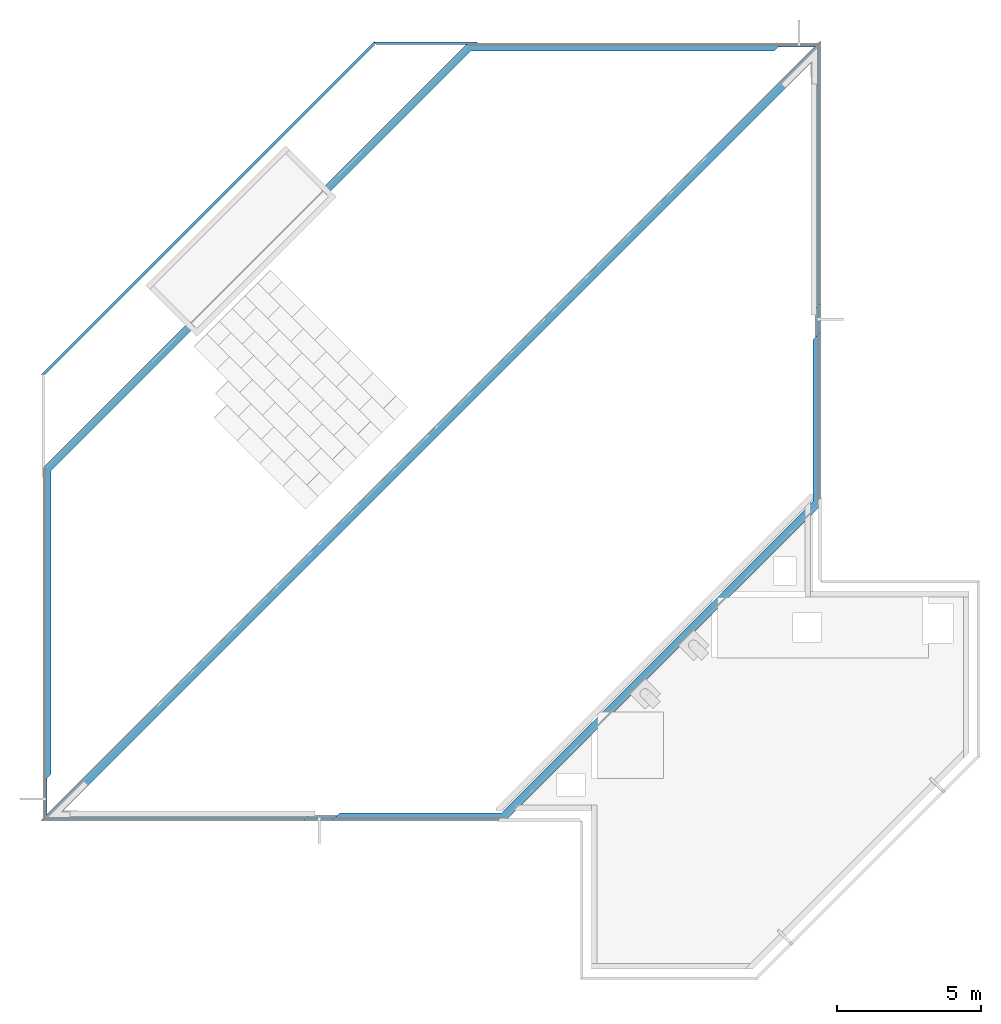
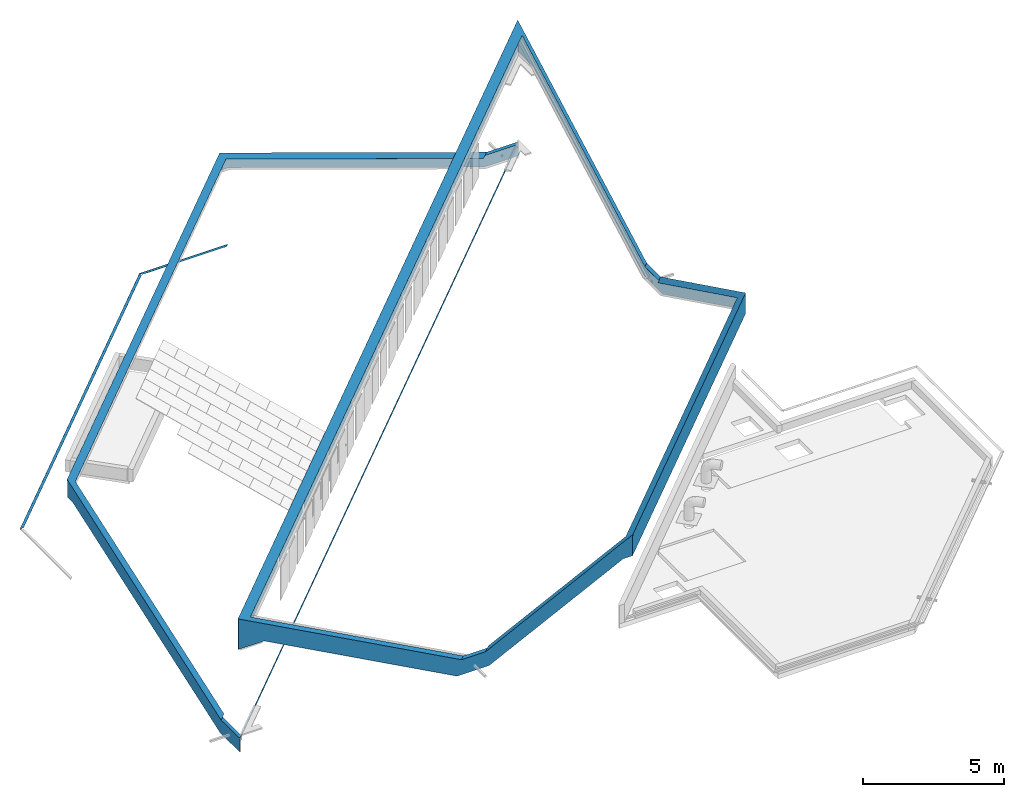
# One storey, part 6 of 8: 3 discrete accessories.
"""IFC4X3_ADD2 building model written with IfcOpenShell, lengths in millimetres."""

from ifc_helpers import new_model, si_unit, direction, frame, origin_with_axes, place, context, subcontext, project, spatial, polygons, source, transform, mapped, material, element, save


model = new_model("IFC4X3_ADD2")

# Units and contexts
model_context = context("Model", 3, precision=1e-05, world=origin_with_axes(), true_north=direction((0.0, 1.0)))
body_context = subcontext(model_context, "Body", "Model", "MODEL_VIEW")
ifc_project = project(units=[si_unit("LENGTHUNIT", "METRE", prefix="MILLI"), si_unit("AREAUNIT", "SQUARE_METRE"), si_unit("VOLUMEUNIT", "CUBIC_METRE"), si_unit("PLANEANGLEUNIT", "RADIAN"), si_unit("TIMEUNIT", "SECOND"), si_unit("MASSUNIT", "GRAM")], contexts=[model_context])

# Site, building, storey
site_placement = place(None, origin_with_axes())
site = spatial("IfcSite", under=ifc_project, at=site_placement, Name="Site", CompositionType="ELEMENT")
building_placement = place(site_placement, origin_with_axes())
building = spatial("IfcBuilding", under=site, at=building_placement, Name="IFC Building Story")
storey_placement = place(building_placement, frame((0.0, 0.0, 17050.0), z_axis=(0.0, 0.0, 1.0), x_axis=(1.0, 0.0, 0.0)))
storey = spatial("IfcBuildingStorey", under=building, at=storey_placement, Name="050", Elevation=17050.0)

# Discrete accessories
ifc_material_1 = material(Name="BB_05.02.34_Aluminium_Dakrand_Sheds")
shared_shape_1 = source(origin_with_axes(), body_context, "Body", "Tessellation", [
    polygons([(25748.5370660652, 26999.0042868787, 599.999999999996), (27066.5651713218, 26999.0042868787, 600.000000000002), (27066.5651713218, 26999.0042868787, 540.000000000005), (25738.4079158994, 26999.0042868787, 540.000000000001), (14839.8588905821, 26999.0042868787, 4327.71760725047), (14839.8588905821, 26999.0042868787, 4391.23792544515), (25748.5370660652, 26997.0042868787, 599.999999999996), (14839.8588905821, 26997.0042868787, 4391.23792544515), (14839.8588905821, 26997.0042868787, 4327.71760725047), (25738.4079158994, 26997.0042868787, 540.000000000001), (27066.5651713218, 26997.0042868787, 540.000000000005), (27066.5651713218, 26997.0042868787, 600.000000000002)], [[[1, 2, 3]], [[1, 3, 4]], [[4, 5, 6]], [[4, 6, 1]], [[7, 8, 9]], [[7, 9, 10]], [[10, 11, 12]], [[10, 12, 7]], [[1, 6, 8, 7]], [[6, 5, 9, 8]], [[5, 4, 10, 9]], [[4, 3, 11, 10]], [[3, 2, 12, 11]], [[2, 1, 7, 12]]]),
    polygons([(25732.0687149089, 26989.0042868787, 570.0), (27066.5651713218, 26989.0042868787, 570.000000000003), (27066.5651713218, 26989.0042868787, 2.16573425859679e-12), (25645.3217485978, 26989.0042868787, 6.49720277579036e-12), (15200.5798052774, 26989.0042868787, 3630.00000000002), (14834.1015312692, 26989.0042868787, 3630.00000000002), (14834.1015312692, 26989.0042868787, 4357.51539207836), (25732.0687149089, 26987.0042868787, 570.0), (14834.1015312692, 26987.0042868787, 4357.51539207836), (14834.1015312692, 26987.0042868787, 3630.00000000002), (15200.5798052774, 26987.0042868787, 3630.00000000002), (25645.3217485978, 26987.0042868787, 6.49720277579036e-12), (27066.5651713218, 26987.0042868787, 2.16573425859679e-12), (27066.5651713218, 26987.0042868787, 570.000000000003)], [[[1, 2, 3]], [[5, 6, 7]], [[1, 3, 4]], [[4, 5, 7]], [[4, 7, 1]], [[11, 12, 8]], [[11, 8, 9]], [[9, 10, 11]], [[12, 13, 8]], [[13, 14, 8]], [[1, 7, 9, 8]], [[7, 6, 10, 9]], [[5, 4, 12, 11]], [[4, 3, 13, 12]], [[3, 2, 14, 13]], [[2, 1, 8, 14]], [[6, 5, 11, 10]]]),
    polygons([(27075.2261934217, 27057.2715649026, 5795.974865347), (27076.5536235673, 17934.4670008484, 840.000000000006), (27076.6969054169, 16949.7580758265, 840.000000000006), (27077.5730085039, 10928.7126243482, 3797.51691475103), (27077.5730085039, 10928.7126243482, 3730.66942669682), (27076.6989338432, 16935.8176535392, 779.999999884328), (27076.5514052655, 17949.7123477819, 780.000000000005), (27075.2261934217, 27057.2715648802, 5727.69281174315), (27073.2261934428, 27057.271273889, 5795.974865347), (27073.2261934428, 27057.2712738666, 5727.69281174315), (27074.5514052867, 17949.7120567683, 780.000000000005), (27074.6989338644, 16935.8173625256, 779.999999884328), (27075.573008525, 10928.7123333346, 3730.66942669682), (27075.573008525, 10928.7123333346, 3797.51691475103), (27074.6969054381, 16949.7577848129, 840.000000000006), (27074.5536235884, 17934.4667098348, 840.000000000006)], [[[3, 4, 5]], [[3, 5, 6]], [[6, 7, 2]], [[6, 2, 3]], [[7, 8, 1]], [[7, 1, 2]], [[16, 9, 10]], [[16, 10, 11]], [[11, 12, 15]], [[11, 15, 16]], [[12, 13, 14]], [[12, 14, 15]], [[1, 8, 10, 9]], [[2, 1, 9, 16]], [[7, 6, 12, 11]], [[5, 4, 14, 13]], [[3, 2, 16, 15]], [[6, 5, 13, 12]], [[4, 3, 15, 14]], [[8, 7, 11, 10]]]),
    polygons([(27066.7406153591, 25989.4708860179, 4469.99999999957), (27066.5852430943, 27057.271562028, 4470.0), (27066.5852430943, 27057.271562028, 5766.95044664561), (27067.9117651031, 17940.7081957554, 815.000000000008), (27068.0568044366, 16943.9209089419, 815.000000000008), (27068.9310398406, 10935.7111663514, 3766.21205848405), (27068.9310398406, 10935.7111663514, 2880.0), (27068.8759127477, 11314.5738098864, 2880.0), (27068.0775748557, 16801.1755638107, 185.0), (27067.8884755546, 18100.7663350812, 185.000000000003), (27064.7406153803, 25989.4705950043, 4469.99999999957), (27065.8884755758, 18100.7660440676, 185.000000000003), (27066.0775748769, 16801.1752727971, 185.0), (27066.8759127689, 11314.5735188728, 2880.0), (27066.9310398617, 10935.7108753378, 2880.0), (27066.9310398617, 10935.7108753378, 3766.21205848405), (27066.0568044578, 16943.9206179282, 815.000000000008), (27065.9117651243, 17940.7079047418, 815.000000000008), (27064.5852431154, 27057.2712710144, 5766.95044664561), (27064.5852431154, 27057.2712710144, 4470.0)], [[[1, 2, 3]], [[8, 9, 5]], [[8, 5, 6]], [[6, 7, 8]], [[9, 10, 4]], [[9, 4, 5]], [[10, 1, 3]], [[10, 3, 4]], [[14, 15, 16]], [[18, 19, 11]], [[18, 11, 12]], [[12, 13, 17]], [[12, 17, 18]], [[13, 14, 16]], [[13, 16, 17]], [[19, 20, 11]], [[3, 2, 20, 19]], [[1, 10, 12, 11]], [[10, 9, 13, 12]], [[7, 6, 16, 15]], [[5, 4, 18, 17]], [[2, 1, 11, 20]], [[8, 7, 15, 14]], [[9, 8, 14, 13]], [[6, 5, 17, 16]], [[4, 3, 19, 18]]]),
    polygons([(27076.5525519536, 17938.3555106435, 842.116390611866), (27076.5525519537, 27077.5694582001, 5807.00567340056), (27076.5525519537, 27075.8462852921, 5808.59165497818), (27076.5525519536, 17936.6323377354, 843.702372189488), (26901.5525519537, 26464.0270550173, 5571.28906775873), (26901.5525519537, 26464.0270550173, 5568.76697036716), (26901.5525519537, 17763.3555106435, 842.116390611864), (26901.5525519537, 17761.6323377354, 843.702372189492), (613.542403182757, 176.016906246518, 5571.28906775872), (613.542403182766, 176.01690624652, 5568.76697036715), (9314.2139475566, 176.016906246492, 844.638488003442), (9314.2139475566, 176.016906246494, 842.116390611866), (9139.21394755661, 1.01690624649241, 842.116390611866), (9139.21394755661, 1.01690624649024, 844.638488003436), (1.72317290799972, 1.01690624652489, 5808.59165497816), (0.0, 1.01690624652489, 5807.00567340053)], [[[1, 2, 3, 4]], [[5, 6, 7, 8]], [[6, 5, 9, 10]], [[10, 9, 11, 12]], [[13, 14, 15, 16]], [[10, 12, 13]], [[10, 13, 16]], [[16, 2, 6]], [[16, 6, 10]], [[2, 1, 7]], [[2, 7, 6]], [[5, 8, 4]], [[5, 4, 3]], [[3, 15, 9]], [[3, 9, 5]], [[15, 14, 11]], [[15, 11, 9]], [[7, 1, 4, 8]], [[12, 11, 14, 13]], [[2, 16, 15, 3]]]),
    polygons([(27059.4877938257, 27060.3685012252, 5807.79341546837), (27059.4877938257, 27060.3685012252, 5730.2123628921), (17.1946472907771, 18.0753546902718, 5730.2123628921), (17.1946472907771, 18.0753546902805, 5807.79341546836), (27060.9020073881, 27058.9542876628, 5807.79341546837), (18.6088608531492, 16.6611411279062, 5807.79341546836), (18.6088608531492, 16.6611411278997, 5730.2123628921), (27060.9020073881, 27058.9542876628, 5730.2123628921)], [[[1, 2, 3, 4]], [[5, 6, 7, 8]], [[2, 1, 5, 8]], [[3, 2, 8, 7]], [[4, 3, 7, 6]], [[1, 4, 6, 5]]]),
    polygons([(20.2978961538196, 2.34681508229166, 5795.97486535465), (20.2978961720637, 2.3468150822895, 5727.69281174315), (9127.85711327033, 1.0216032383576, 780.000000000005), (10141.751807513, 0.874074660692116, 779.999999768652), (16148.856836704, 0.0, 3730.66942669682), (16148.856836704, 0.0, 3797.51691475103), (10127.8113852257, 0.876103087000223, 840.000000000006), (9143.10246020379, 1.01938493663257, 840.000000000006), (20.2981871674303, 4.34681506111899, 5795.97486535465), (9143.10275121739, 3.0193849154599, 840.000000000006), (10127.8116762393, 2.87610306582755, 840.000000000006), (16148.8571277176, 1.99999997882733, 3797.51691475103), (16148.8571277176, 1.99999997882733, 3730.66942669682), (10141.7520985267, 2.87407463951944, 779.999999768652), (9127.85740428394, 3.02160321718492, 780.000000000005), (20.2981871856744, 4.34681506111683, 5727.69281174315)], [[[8, 1, 2]], [[8, 2, 3]], [[3, 4, 7]], [[3, 7, 8]], [[4, 5, 6]], [[4, 6, 7]], [[11, 12, 13]], [[11, 13, 14]], [[14, 15, 10]], [[14, 10, 11]], [[15, 16, 9]], [[15, 9, 10]], [[2, 1, 9, 16]], [[1, 8, 10, 9]], [[4, 3, 15, 14]], [[6, 5, 13, 12]], [[8, 7, 11, 10]], [[5, 4, 14, 13]], [[7, 6, 12, 11]], [[3, 2, 16, 15]]]),
    polygons([(27076.5525519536, 10927.5884217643, 3798.02084128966), (27076.5525519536, 10927.5884217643, 3800.45602044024), (16149.9810364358, 1.01690624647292, 3800.45602044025), (16149.9810364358, 1.01690624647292, 3798.02084128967), (10122.8199971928, 1.01690624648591, 840.008099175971), (10122.8199971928, 1.01690624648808, 837.572920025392), (26807.5525519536, 16686.4127150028, 837.247139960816), (26807.5525519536, 16686.4127150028, 839.682319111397), (27076.5525519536, 16955.4127150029, 839.68231911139), (27076.5525519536, 16955.4127150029, 837.247139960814), (10391.8199971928, 270.016906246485, 837.572920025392), (10391.8199971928, 270.016906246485, 840.008099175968), (16021.5870254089, 270.016906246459, 3605.26225239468), (16021.5870254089, 270.016906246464, 3602.8270732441), (26807.5525519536, 11055.9824327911, 3605.26225239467), (26807.5525519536, 11055.9824327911, 3602.82707324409)], [[[1, 2, 3, 4]], [[4, 3, 5, 6]], [[7, 8, 9, 10]], [[2, 1, 10, 9]], [[11, 12, 13, 14]], [[14, 13, 15, 16]], [[8, 7, 16, 15]], [[12, 11, 6, 5]], [[13, 12, 5]], [[13, 5, 3]], [[3, 2, 15]], [[3, 15, 13]], [[2, 9, 8]], [[2, 8, 15]], [[16, 7, 10]], [[16, 10, 1]], [[1, 4, 14]], [[1, 14, 16]], [[4, 6, 11]], [[4, 11, 14]]]),
    polygons([(16149.1630797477, 0.198949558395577, 3797.51691475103), (16149.1624873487, 0.198357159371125, 3730.08748172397), (27080.7073069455, 10931.7431767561, 3730.08748172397), (27080.7073069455, 10931.7431767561, 3797.51691475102), (16147.7488661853, 1.61316312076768, 3797.51691475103), (27079.2930933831, 10933.1573903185, 3797.51691475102), (27079.2930933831, 10933.1573903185, 3730.08748172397), (16147.7482737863, 1.61257072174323, 3730.08748172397)], [[[1, 2, 3, 4]], [[5, 6, 7, 8]], [[3, 2, 8, 7]], [[4, 3, 7, 6]], [[1, 4, 6, 5]], [[2, 1, 5, 8]]]),
    polygons([(78.5651713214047, 1329.03239213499, 600.0), (78.565171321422, 12237.7105676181, 4391.23792544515), (78.565171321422, 12237.7105676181, 4327.71760725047), (78.5651713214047, 1339.1615423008, 540.000000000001), (78.5651713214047, 11.0042868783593, 540.000000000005), (78.5651713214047, 11.0042868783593, 600.000000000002), (80.5651713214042, 1329.03239213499, 600.0), (80.5651713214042, 11.0042868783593, 600.000000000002), (80.5651713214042, 11.0042868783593, 540.000000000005), (80.5651713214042, 1339.1615423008, 540.000000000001), (80.5651713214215, 12237.7105676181, 4327.71760725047), (80.5651713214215, 12237.7105676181, 4391.23792544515)], [[[1, 2, 3]], [[1, 3, 4]], [[4, 5, 6]], [[4, 6, 1]], [[7, 8, 9]], [[7, 9, 10]], [[10, 11, 12]], [[10, 12, 7]], [[2, 1, 7, 12]], [[3, 2, 12, 11]], [[4, 3, 11, 10]], [[5, 4, 10, 9]], [[6, 5, 9, 8]], [[1, 6, 8, 7]]]),
    polygons([(78.565171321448, 12237.7105676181, 4392.08749079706), (14839.8588905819, 26999.0042868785, 4392.08749079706), (14839.8588905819, 26999.0042868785, 4324.25940845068), (78.565171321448, 12237.7105676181, 4324.25940845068), (79.9793848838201, 12236.2963540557, 4392.08749079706), (79.9793848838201, 12236.2963540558, 4324.25940845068), (14841.2731041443, 26997.5900733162, 4324.25940845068), (14841.2731041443, 26997.5900733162, 4392.08749079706)], [[[1, 2, 3, 4]], [[5, 6, 7, 8]], [[2, 1, 5, 8]], [[3, 2, 8, 7]], [[4, 3, 7, 6]], [[1, 4, 6, 5]]]),
    polygons([(1088.09857258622, 10.8316210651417, 4469.99999999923), (8976.80312352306, 9.68376086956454, 185.000000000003), (10276.3938947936, 9.49466156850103, 185.000000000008), (15762.9956487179, 8.69632367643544, 2880.0), (16141.8582922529, 8.64119658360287, 2880.0), (16141.8582922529, 8.64119658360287, 3766.21205848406), (10133.6485496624, 9.51543198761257, 815.000000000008), (9136.86126284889, 9.66047132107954, 815.000000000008), (20.2978965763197, 10.9869933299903, 5766.95044664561), (20.2978965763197, 10.9869933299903, 4470.0), (1088.09886359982, 12.831621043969, 4469.99999999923), (20.2981875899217, 12.9869933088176, 4470.0), (20.2981875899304, 12.9869933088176, 5766.95044664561), (9136.8615538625, 11.6604712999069, 815.000000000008), (10133.6488406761, 11.5154319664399, 815.000000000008), (16141.8585832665, 10.6411965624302, 3766.21205848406), (16141.8585832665, 10.6411965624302, 2880.0), (15762.9959397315, 10.6963236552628, 2880.0), (10276.3941858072, 11.4946615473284, 185.000000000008), (8976.80341453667, 11.6837608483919, 185.000000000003)], [[[4, 5, 6]], [[8, 9, 1]], [[8, 1, 2]], [[2, 3, 7]], [[2, 7, 8]], [[3, 4, 6]], [[3, 6, 7]], [[9, 10, 1]], [[11, 12, 13]], [[18, 19, 15]], [[18, 15, 16]], [[16, 17, 18]], [[19, 20, 14]], [[19, 14, 15]], [[20, 11, 13]], [[20, 13, 14]], [[10, 9, 13, 12]], [[2, 1, 11, 20]], [[3, 2, 20, 19]], [[6, 5, 17, 16]], [[8, 7, 15, 14]], [[1, 10, 12, 11]], [[5, 4, 18, 17]], [[4, 3, 19, 18]], [[7, 6, 16, 15]], [[9, 8, 14, 13]]]),
    polygons([(157.191305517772, 70.3907720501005, 680.000000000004), (157.19130551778, 70.390772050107, 440.000000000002), (245.579653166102, 158.779119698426, 440.000000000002), (245.579653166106, 158.779119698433, 560.000000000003), (26932.7903385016, 26845.9898050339, 560.000000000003), (26932.7903385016, 26845.9898050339, 440.000000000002), (27021.1786861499, 26934.3781526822, 440.000000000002), (27021.1786861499, 26934.3781526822, 680.000000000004), (155.777091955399, 71.8049856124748, 680.000000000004), (27019.7644725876, 26935.7923662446, 680.000000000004), (27019.7644725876, 26935.7923662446, 440.000000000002), (26931.3761249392, 26847.4040185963, 440.000000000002), (26931.3761249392, 26847.4040185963, 560.000000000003), (244.165439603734, 160.193333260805, 560.000000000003), (244.16543960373, 160.193333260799, 440.000000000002), (155.777091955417, 71.8049856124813, 440.000000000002)], [[[5, 6, 7]], [[5, 7, 8]], [[8, 1, 4]], [[8, 4, 5]], [[1, 2, 4]], [[2, 3, 4]], [[14, 15, 16]], [[14, 16, 9]], [[9, 10, 13]], [[9, 13, 14]], [[10, 11, 13]], [[11, 12, 13]], [[10, 9, 1, 8]], [[11, 10, 8, 7]], [[12, 11, 7, 6]], [[13, 12, 6, 5]], [[14, 13, 5, 4]], [[15, 14, 4, 3]], [[16, 15, 3, 2]], [[9, 16, 2, 1]]]),
    polygons([(88.5651713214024, 1345.50074329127, 570.0), (88.5651713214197, 12243.467926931, 4357.51539207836), (88.5651713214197, 12243.467926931, 3630.00000000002), (88.5651713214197, 11876.9896529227, 3630.00000000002), (88.5651713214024, 1432.24770960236, 2.16573425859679e-12), (88.5651713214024, 11.0042868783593, 2.16573425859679e-12), (88.5651713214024, 11.0042868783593, 570.000000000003), (90.5651713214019, 1345.50074329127, 570.0), (90.5651713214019, 11.0042868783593, 570.000000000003), (90.5651713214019, 11.0042868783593, 2.16573425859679e-12), (90.5651713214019, 1432.24770960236, 2.16573425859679e-12), (90.5651713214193, 11876.9896529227, 3630.00000000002), (90.5651713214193, 12243.467926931, 3630.00000000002), (90.5651713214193, 12243.467926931, 4357.51539207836)], [[[4, 5, 1]], [[4, 1, 2]], [[2, 3, 4]], [[5, 6, 1]], [[6, 7, 1]], [[8, 9, 10]], [[12, 13, 14]], [[8, 10, 11]], [[11, 12, 14]], [[11, 14, 8]], [[2, 1, 8, 14]], [[3, 2, 14, 13]], [[5, 4, 12, 11]], [[6, 5, 11, 10]], [[7, 6, 10, 9]], [[1, 7, 9, 8]], [[4, 3, 13, 12]]]),
    polygons([(98.4646662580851, 12243.467926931, 4355.00000000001), (14853.9005211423, 26998.9037818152, 4355.00000000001), (14853.9005211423, 26998.9037818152, 3630.00000000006), (98.4646662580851, 12243.467926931, 3630.00000000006), (99.8788798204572, 12242.0537133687, 4355.00000000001), (99.8788798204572, 12242.0537133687, 3630.00000000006), (14855.3147347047, 26997.4895682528, 3630.00000000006), (14855.3147347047, 26997.4895682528, 4355.00000000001)], [[[1, 2, 3, 4]], [[5, 6, 7, 8]], [[2, 1, 5, 8]], [[3, 2, 8, 7]], [[4, 3, 7, 6]], [[1, 4, 6, 5]]]),
    polygons([(25753.7299589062, 26999.0042868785, 600.000000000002), (25603.7299589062, 26849.0042868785, 600.000000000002), (26903.2779084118, 26849.0042868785, 600.000000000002), (27053.2779084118, 26999.0042868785, 600.000000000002), (25753.7299589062, 26999.0042868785, 598.000000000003), (27053.2779084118, 26999.0042868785, 598.000000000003), (26903.2779084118, 26849.0042868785, 598.000000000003), (25603.7299589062, 26849.0042868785, 598.000000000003)], [[[1, 2, 3, 4]], [[5, 6, 7, 8]], [[1, 4, 6, 5]], [[4, 3, 7, 6]], [[3, 2, 8, 7]], [[2, 1, 5, 8]]]),
    polygons([(14839.8588905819, 26999.0042868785, 4393.50616580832), (78.5651713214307, 12237.7105676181, 4393.50616580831), (78.565171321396, 1325.12808107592, 600.911323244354), (361.565171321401, 1608.12808107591, 600.91132324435), (361.565171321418, 12138.8729057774, 4260.80104776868), (14938.6965524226, 26716.0042868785, 4260.80104776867), (25470.7299589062, 26716.0042868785, 600.463485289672), (25753.7299589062, 26999.0042868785, 600.463485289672), (78.5651713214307, 12237.7105676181, 4391.23792544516), (14839.8588905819, 26999.0042868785, 4391.23792544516), (25753.7299589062, 26999.0042868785, 598.195244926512), (25470.7299589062, 26716.0042868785, 598.195244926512), (14938.6965524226, 26716.0042868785, 4258.53280740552), (361.565171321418, 12138.8729057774, 4258.53280740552), (361.565171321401, 1608.12808107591, 598.643082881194), (228.56517132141, 1475.12808107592, 598.643082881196), (78.5651713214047, 1325.12808107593, 598.643082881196), (78.5651713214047, 1325.12808107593, 598.000000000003), (78.5651713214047, 24.2915497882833, 598.000000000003), (78.5651713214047, 24.2915497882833, 600.000000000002), (78.5651713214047, 1325.12808107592, 600.000000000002), (228.56517132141, 1475.12808107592, 600.000000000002), (228.56517132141, 174.291549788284, 600.000000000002), (228.56517132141, 1475.12808107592, 598.000000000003), (228.56517132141, 174.291549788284, 598.000000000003)], [[[6, 7, 8]], [[6, 8, 1]], [[1, 2, 5]], [[1, 5, 6]], [[2, 3, 4]], [[2, 4, 5]], [[16, 17, 9]], [[9, 14, 15]], [[9, 15, 16]], [[9, 10, 13]], [[9, 13, 14]], [[10, 11, 12]], [[10, 12, 13]], [[9, 2, 1, 10]], [[10, 1, 8, 11]], [[12, 7, 6, 13]], [[13, 6, 5, 14]], [[14, 5, 4, 15]], [[17, 18, 19]], [[21, 3, 2]], [[21, 2, 9]], [[9, 17, 21]], [[17, 19, 20]], [[17, 20, 21]], [[11, 8, 7, 12]], [[22, 16, 15]], [[22, 15, 4]], [[22, 4, 3]], [[3, 21, 22]], [[21, 20, 23, 22]], [[18, 24, 25, 19]], [[23, 20, 19, 25]], [[16, 22, 23]], [[16, 23, 25]], [[25, 24, 16]], [[24, 18, 17, 16]]]),
    polygons([(27066.5588616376, 27053.2974334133, 5771.03964506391), (27066.5588616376, 27053.2974334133, 4470.0), (23267.5679991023, 23254.3065708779, 4470.0), (23267.5679991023, 23254.3065708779, 4820.0), (23154.4309141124, 23141.1694858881, 4820.0), (23154.4309141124, 23141.1694858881, 4470.0), (20851.1719957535, 20837.9105675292, 4470.0), (20851.1719957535, 20837.9105675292, 4819.99999999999), (20738.0349107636, 20724.7734825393, 4819.99999999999), (20738.0349107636, 20724.7734825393, 4470.0), (18434.7759924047, 18421.5145641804, 4470.0), (18434.7759924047, 18421.5145641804, 4819.99999999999), (18321.6389074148, 18308.3774791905, 4819.99999999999), (18321.6389074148, 18308.3774791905, 4470.0), (16018.3799890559, 16005.1185608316, 4470.0), (16018.3799890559, 16005.1185608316, 4819.99999999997), (15905.242904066, 15891.9814758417, 4819.99999999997), (15905.242904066, 15891.9814758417, 4470.0), (13601.9839857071, 13588.7225574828, 4470.0), (13601.9839857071, 13588.7225574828, 4819.99999999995), (13488.8469007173, 13475.5854724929, 4819.99999999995), (13488.8469007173, 13475.5854724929, 4470.0), (11185.5879823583, 11172.326554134, 4470.0), (11185.5879823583, 11172.326554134, 4819.99999999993), (11072.4508973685, 11059.1894691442, 4819.99999999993), (11072.4508973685, 11059.1894691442, 4470.0), (8769.19197900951, 8755.93055078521, 4470.0), (8769.19197900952, 8755.93055078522, 4819.99999999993), (8656.05489401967, 8642.79346579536, 4819.99999999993), (8656.05489401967, 8642.79346579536, 4470.0), (6352.79597566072, 6339.53454743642, 4470.0), (6352.79597566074, 6339.53454743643, 4819.99999999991), (6239.65889067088, 6226.39746244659, 4819.99999999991), (6239.65889067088, 6226.39746244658, 4470.0), (3936.39997231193, 3923.13854408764, 4470.0), (3936.39997231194, 3923.13854408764, 4819.9999999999), (3823.2628873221, 3810.0014590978, 4819.9999999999), (3823.2628873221, 3810.0014590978, 4470.0), (24.2657151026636, 11.0042868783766, 4470.0), (24.2657151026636, 11.0042868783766, 5771.0396450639), (27067.9730752, 27051.8832198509, 5771.03964506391), (25.6799286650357, 9.59007331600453, 5771.0396450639), (25.6799286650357, 9.59007331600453, 4470.0), (3824.67710088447, 3808.58724553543, 4470.0), (3824.67710088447, 3808.58724553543, 4819.9999999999), (3937.81418587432, 3921.72433052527, 4819.9999999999), (3937.81418587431, 3921.72433052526, 4470.0), (6241.07310423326, 6224.98324888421, 4470.0), (6241.07310423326, 6224.98324888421, 4819.99999999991), (6354.2101892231, 6338.12033387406, 4819.99999999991), (6354.21018922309, 6338.12033387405, 4470.0), (8657.46910758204, 8641.37925223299, 4470.0), (8657.46910758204, 8641.37925223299, 4819.99999999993), (8770.6061925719, 8754.51633722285, 4819.99999999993), (8770.60619257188, 8754.51633722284, 4470.0), (11073.8651109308, 11057.7752555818, 4470.0), (11073.8651109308, 11057.7752555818, 4819.99999999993), (11187.0021959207, 11170.9123405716, 4819.99999999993), (11187.0021959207, 11170.9123405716, 4470.0), (13490.2611142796, 13474.1712589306, 4470.0), (13490.2611142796, 13474.1712589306, 4819.99999999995), (13603.3981992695, 13587.3083439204, 4819.99999999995), (13603.3981992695, 13587.3083439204, 4470.0), (15906.6571176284, 15890.5672622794, 4470.0), (15906.6571176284, 15890.5672622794, 4819.99999999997), (16019.7942026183, 16003.7043472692, 4819.99999999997), (16019.7942026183, 16003.7043472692, 4470.0), (18323.0531209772, 18306.9632656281, 4470.0), (18323.0531209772, 18306.9632656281, 4819.99999999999), (18436.1902059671, 18420.100350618, 4819.99999999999), (18436.1902059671, 18420.100350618, 4470.0), (20739.449124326, 20723.3592689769, 4470.0), (20739.449124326, 20723.3592689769, 4819.99999999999), (20852.5862093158, 20836.4963539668, 4819.99999999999), (20852.5862093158, 20836.4963539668, 4470.0), (23155.8451276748, 23139.7552723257, 4470.0), (23155.8451276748, 23139.7552723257, 4820.0), (23268.9822126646, 23252.8923573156, 4820.0), (23268.9822126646, 23252.8923573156, 4470.0), (27067.9730752, 27051.8832198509, 4470.0)], [[[5, 6, 7]], [[9, 10, 11]], [[9, 11, 12]], [[37, 38, 39]], [[37, 39, 40]], [[40, 36, 37]], [[40, 33, 36]], [[33, 34, 35]], [[33, 35, 36]], [[40, 32, 33]], [[40, 29, 32]], [[29, 30, 31]], [[29, 31, 32]], [[40, 28, 29]], [[40, 25, 28]], [[25, 26, 27]], [[25, 27, 28]], [[40, 24, 25]], [[40, 21, 24]], [[21, 22, 23]], [[21, 23, 24]], [[40, 20, 21]], [[40, 17, 20]], [[17, 18, 19]], [[17, 19, 20]], [[40, 16, 17]], [[40, 13, 16]], [[13, 14, 15]], [[13, 15, 16]], [[40, 12, 13]], [[40, 1, 12]], [[1, 9, 12]], [[1, 8, 9]], [[5, 7, 8]], [[8, 1, 5]], [[1, 4, 5]], [[1, 2, 3]], [[1, 3, 4]], [[46, 47, 48]], [[50, 51, 52]], [[50, 52, 53]], [[78, 79, 80]], [[78, 80, 41]], [[41, 77, 78]], [[41, 74, 77]], [[74, 75, 76]], [[74, 76, 77]], [[41, 73, 74]], [[41, 70, 73]], [[70, 71, 72]], [[70, 72, 73]], [[41, 69, 70]], [[41, 66, 69]], [[66, 67, 68]], [[66, 68, 69]], [[41, 65, 66]], [[41, 62, 65]], [[62, 63, 64]], [[62, 64, 65]], [[41, 61, 62]], [[41, 58, 61]], [[58, 59, 60]], [[58, 60, 61]], [[41, 57, 58]], [[41, 54, 57]], [[54, 55, 56]], [[54, 56, 57]], [[41, 53, 54]], [[41, 42, 53]], [[42, 50, 53]], [[42, 49, 50]], [[46, 48, 49]], [[49, 42, 46]], [[42, 45, 46]], [[42, 43, 44]], [[42, 44, 45]], [[2, 1, 41, 80]], [[3, 2, 80, 79]], [[40, 39, 43, 42]], [[1, 40, 42, 41]], [[4, 3, 79, 78]], [[5, 4, 78, 77]], [[6, 5, 77, 76]], [[7, 6, 76, 75]], [[8, 7, 75, 74]], [[9, 8, 74, 73]], [[10, 9, 73, 72]], [[11, 10, 72, 71]], [[12, 11, 71, 70]], [[13, 12, 70, 69]], [[14, 13, 69, 68]], [[15, 14, 68, 67]], [[16, 15, 67, 66]], [[17, 16, 66, 65]], [[18, 17, 65, 64]], [[19, 18, 64, 63]], [[20, 19, 63, 62]], [[21, 20, 62, 61]], [[22, 21, 61, 60]], [[23, 22, 60, 59]], [[24, 23, 59, 58]], [[25, 24, 58, 57]], [[26, 25, 57, 56]], [[27, 26, 56, 55]], [[28, 27, 55, 54]], [[29, 28, 54, 53]], [[30, 29, 53, 52]], [[31, 30, 52, 51]], [[32, 31, 51, 50]], [[33, 32, 50, 49]], [[34, 33, 49, 48]], [[35, 34, 48, 47]], [[36, 35, 47, 46]], [[37, 36, 46, 45]], [[38, 37, 45, 44]], [[39, 38, 44, 43]]]),
    polygons([(16142.6646101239, 7.84261555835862, 3760.64143447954), (16142.6568732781, 7.8348787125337, 2880.0), (27073.6362391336, 10938.814244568, 2880.0), (27073.6362391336, 10938.814244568, 3760.64143447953), (16141.2503965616, 9.25682912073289, 3760.64143447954), (27072.2220255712, 10940.2284581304, 3760.64143447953), (27072.2220255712, 10940.2284581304, 2880.0), (16141.2426597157, 9.24909227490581, 2880.0)], [[[1, 2, 3, 4]], [[5, 6, 7, 8]], [[3, 2, 8, 7]], [[4, 3, 7, 6]], [[1, 4, 6, 5]], [[2, 1, 5, 8]]]),
    polygons([(27076.5525519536, 17936.6323377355, 840.000000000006), (26901.5525519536, 17761.6323377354, 840.000000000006), (26901.5525519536, 16780.4127150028, 840.000000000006), (27076.5525519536, 16955.4127150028, 840.000000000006), (27076.5525519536, 17936.6323377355, 838.000000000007), (27076.5525519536, 16955.4127150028, 838.000000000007), (26901.5525519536, 16780.4127150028, 838.000000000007), (26901.5525519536, 17761.6323377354, 838.000000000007)], [[[1, 2, 3, 4]], [[5, 6, 7, 8]], [[1, 4, 6, 5]], [[4, 3, 7, 6]], [[3, 2, 8, 7]], [[2, 1, 5, 8]]]),
    polygons([(9139.21394755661, 1.01690624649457, 840.000000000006), (10122.8199971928, 1.01690624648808, 840.000000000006), (10297.8199971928, 176.016906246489, 840.000000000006), (9314.21394755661, 176.016906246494, 840.000000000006), (9139.21394755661, 1.01690624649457, 838.000000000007), (9314.21394755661, 176.016906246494, 838.000000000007), (10297.8199971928, 176.016906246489, 838.000000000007), (10122.8199971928, 1.01690624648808, 838.000000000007)], [[[1, 2, 3, 4]], [[5, 6, 7, 8]], [[1, 4, 6, 5]], [[2, 1, 5, 8]], [[3, 2, 8, 7]], [[4, 3, 7, 6]]]),
])
discrete_accessory_1_placement = place(storey_placement, frame((-39227.5651713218, 12149.9957131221, 110.0), z_axis=(0.0, 0.0, 1.0), x_axis=(1.0, 0.0, 0.0)))
element("IfcDiscreteAccessory", 1, at=discrete_accessory_1_placement, inside=storey, material=ifc_material_1, Name="BB_Shed_Dakranden:BB_Shed_Dakranden", ObjectType="BB_Shed_Dakranden:BB_Shed_Dakranden", PredefinedType="USERDEFINED", context=body_context, shape_type="MappedRepresentation", body=[
    mapped(shared_shape_1, transform((0.0, 0.0, 0.0))),
])
ifc_material_2 = material(Name="BB_Metaal_Aluminium_Buitenschrijnwerk")
shared_shape_2 = source(origin_with_axes(), body_context, "Body", "Tessellation", [
    polygons([(1.99999999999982, 1.99999999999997, 44.9888268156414), (2.0, 2.0, 5.00291224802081), (8.10150784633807, 8.10150784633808, 11.4146481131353), (9.51615595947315, 9.51615595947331, 9.99999999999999), (0.0, 0.0, 0.0), (0.0, 0.0, 59.9888268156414), (9.99999999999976, 9.99999999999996, 59.9888268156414), (9.99999999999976, 9.99999999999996, 57.9888268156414), (2.0, 2.0, 57.9888268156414), (2.0, 2.0, 46.9888268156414), (100.0, 100.0, 46.9888268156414), (100.0, 100.0, 44.9888268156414), (3617.62590435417, 1.99999999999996, 5.00291224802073), (3617.62590435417, 2.0, 44.9888268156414), (3519.62590435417, 100.0, 44.9888268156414), (3519.62590435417, 100.0, 46.9888268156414), (3617.62590435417, 1.99999999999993, 46.9888268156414), (3617.62590435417, 1.99999999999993, 57.9888268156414), (3609.62590435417, 9.99999999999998, 57.9888268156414), (3609.62590435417, 9.99999999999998, 59.9888268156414), (3619.62590435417, 0.0, 59.9888268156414), (3619.62590435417, 0.0, 0.0), (3610.1097483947, 9.51615595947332, 9.99999999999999), (3611.52439650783, 8.10150784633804, 11.4146481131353)], [[[2, 3, 4]], [[2, 4, 5]], [[5, 6, 1]], [[5, 1, 2]], [[10, 11, 12]], [[10, 12, 1]], [[10, 1, 6]], [[6, 9, 10]], [[6, 7, 8]], [[6, 8, 9]], [[18, 19, 20]], [[18, 20, 21]], [[21, 17, 18]], [[21, 14, 17]], [[14, 15, 16]], [[14, 16, 17]], [[21, 22, 13]], [[21, 13, 14]], [[22, 23, 24]], [[22, 24, 13]], [[2, 1, 14, 13]], [[5, 4, 23, 22]], [[3, 2, 13, 24]], [[6, 5, 22, 21]], [[4, 3, 24, 23]], [[7, 6, 21, 20]], [[8, 7, 20, 19]], [[9, 8, 19, 18]], [[10, 9, 18, 17]], [[11, 10, 17, 16]], [[12, 11, 16, 15]], [[1, 12, 15, 14]]]),
])
discrete_accessory_2_placement = place(storey_placement, frame((-24051.1857864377, 39180.0, 360.0055865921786), z_axis=(0.0, 0.0, 1.0), x_axis=(-1.0, 0.0, 0.0)))
element("IfcDiscreteAccessory", 2, at=discrete_accessory_2_placement, inside=storey, material=ifc_material_2, Name="BB_05.10_Dakrandprofiel, 60 mm_GLI:XX_Geen", ObjectType="BB_05.10_Dakrandprofiel, 60 mm_GLI:XX_Geen", PredefinedType="USERDEFINED", context=body_context, shape_type="MappedRepresentation", body=[
    mapped(shared_shape_2, transform((0.0, 0.0, 0.0))),
])
shared_shape_3 = source(origin_with_axes(), body_context, "Body", "Tessellation", [
    polygons([(2.00000000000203, 2.0, 44.988826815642), (2.0000000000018, 2.0, 5.00291224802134), (8.10150784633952, 8.10150784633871, 11.4146481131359), (9.51615595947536, 9.51615595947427, 10.0), (1.17169607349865e-12, 0.0, 0.0), (1.08286712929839e-12, 0.0, 59.988826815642), (10.0000000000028, 10.0000000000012, 59.988826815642), (10.0000000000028, 10.0000000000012, 57.988826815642), (2.0000000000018, 2.0, 57.988826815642), (2.0000000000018, 2.0, 46.988826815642), (100.000000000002, 100.0, 46.988826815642), (100.000000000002, 100.0, 44.988826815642), (16334.4501987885, 2.0, 5.00291224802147), (16334.4501987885, 2.0, 44.988826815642), (16236.4501987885, 100.0, 44.988826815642), (16236.4501987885, 100.0, 46.988826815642), (16334.4501987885, 2.0, 46.988826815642), (16334.4501987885, 2.0, 57.988826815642), (16326.4501987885, 10.0, 57.988826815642), (16326.4501987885, 10.0, 59.988826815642), (16336.4501987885, 1.54393164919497e-12, 59.988826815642), (16336.4501987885, 1.11247677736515e-12, 0.0), (16326.934042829, 9.51615595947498, 9.99999999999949), (16328.3486909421, 8.1015078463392, 11.4146481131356)], [[[2, 3, 4]], [[2, 4, 5]], [[5, 6, 1]], [[5, 1, 2]], [[10, 11, 12]], [[10, 12, 1]], [[10, 1, 6]], [[6, 9, 10]], [[6, 7, 8]], [[6, 8, 9]], [[18, 19, 20]], [[18, 20, 21]], [[21, 17, 18]], [[21, 14, 17]], [[14, 15, 16]], [[14, 16, 17]], [[21, 22, 13]], [[21, 13, 14]], [[22, 23, 24]], [[22, 24, 13]], [[2, 1, 14, 13]], [[5, 4, 23, 22]], [[3, 2, 13, 24]], [[6, 5, 22, 21]], [[4, 3, 24, 23]], [[7, 6, 21, 20]], [[8, 7, 20, 19]], [[9, 8, 19, 18]], [[10, 9, 18, 17]], [[11, 10, 17, 16]], [[12, 11, 16, 15]], [[1, 12, 15, 14]]]),
])
discrete_accessory_3_placement = place(storey_placement, frame((-27640.8116907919, 39192.4264068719, 360.0055865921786), z_axis=(0.0, 0.0, 1.0), x_axis=(-0.7071067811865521, -0.707106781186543, 0.0)))
element("IfcDiscreteAccessory", 3, at=discrete_accessory_3_placement, inside=storey, material=ifc_material_2, Name="BB_05.10_Dakrandprofiel, 60 mm_GLI:XX_Geen", ObjectType="BB_05.10_Dakrandprofiel, 60 mm_GLI:XX_Geen", PredefinedType="USERDEFINED", context=body_context, shape_type="MappedRepresentation", body=[
    mapped(shared_shape_3, transform((0.0, 0.0, 0.0))),
])

save(model, "model.ifc")
